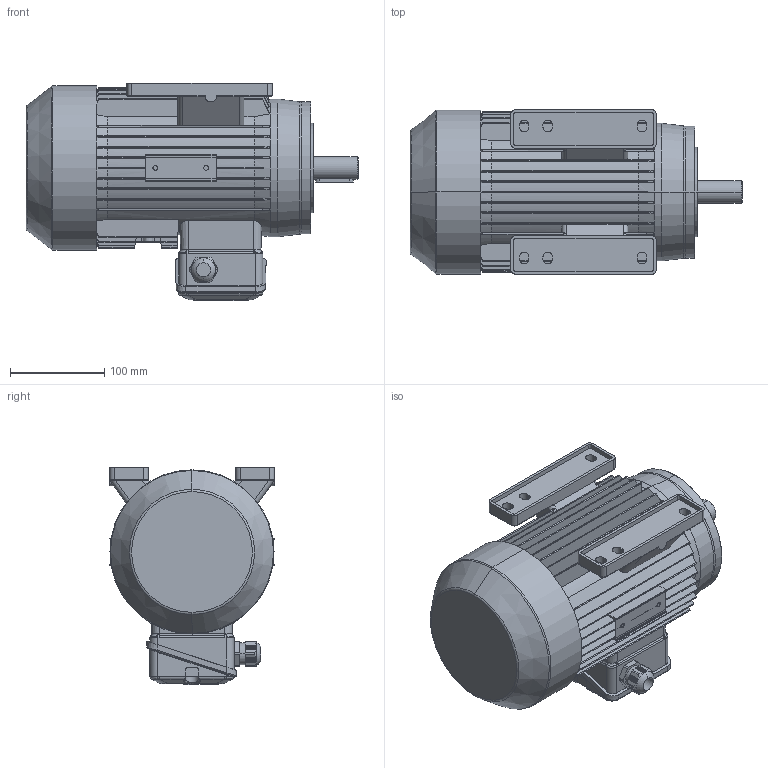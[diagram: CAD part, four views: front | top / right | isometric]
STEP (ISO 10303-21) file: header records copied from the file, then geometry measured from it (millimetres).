
FILE_DESCRIPTION (( 'STEP AP214' ), '1' );
FILE_NAME ('MAP90S4A IM2141 FT115.STEP', '2020-12-21T14:56:34', ( '' ), ( '' ), 'SwSTEP 2.0', 'SolidWorks 2018', '' );
FILE_SCHEMA (( 'AUTOMOTIVE_DESIGN' ));
Length unit declared in the file: millimetre
Products named in the file (1): MAP90S4A IM2141 FT115
Bounding box: 352 x 174.5 x 231 mm (x, y, z)
Volume: 6176279.4 mm3; surface area: 448827.4 mm2
Topology: 2 solids, 8 shells, 1220 faces, 3252 edges, 2086 vertices
Faces by surface type: plane 571, cylinder 317, cone 156, bspline 122, torus 52, sphere 2
Entity records: 45965 total; most frequent: CARTESIAN_POINT 17432, ORIENTED_EDGE 6492, DIRECTION 5236, EDGE_CURVE 3246, VERTEX_POINT 2086, AXIS2_PLACEMENT_3D 1799, LINE 1638, VECTOR 1638
